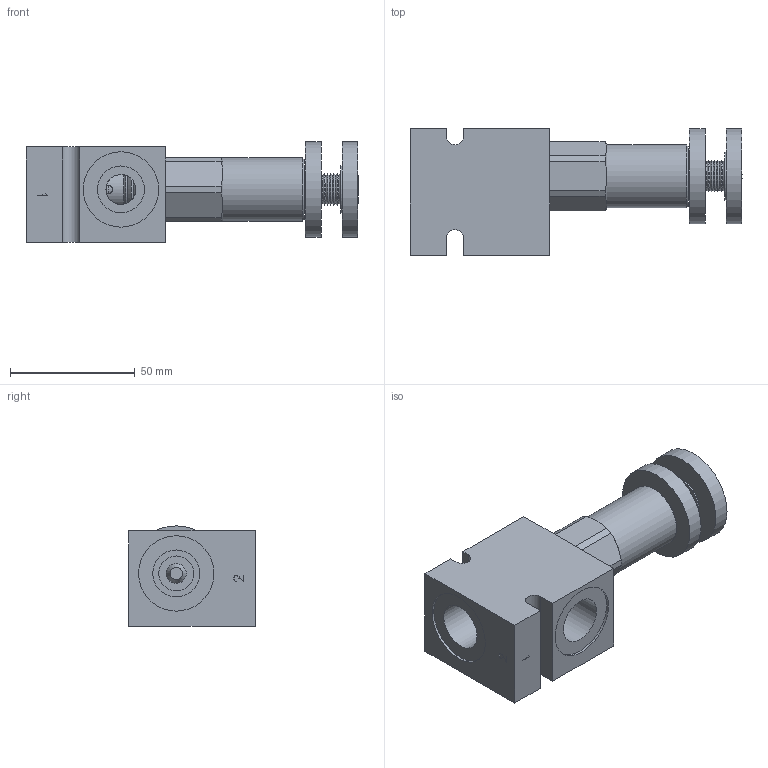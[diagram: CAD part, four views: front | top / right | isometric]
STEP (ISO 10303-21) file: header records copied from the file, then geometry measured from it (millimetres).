
FILE_DESCRIPTION( ( 'Unknown' ), '1' );
FILE_NAME( 'G:/Graphic Design/Graphic Design 2/Data Sheets/PRESSURE CONTROLS/2_STEP/Direct Acting Relief Valves/D-DERVA0K-C2.stp', 'Unknown', ( 'Unknown' ), ( 'Unknown' ), 'PSStep 16.0.42', 'Unknown', ' ' );
FILE_SCHEMA( ( 'AUTOMOTIVE_DESIGN { 1 0 10303 214 1 1 1 1 }' ) );
Length unit declared in the file: millimetre
Products named in the file (9): DERVA0K; DERVA0K-3D Full1; DERVA0K-3D Full2; DERVA0K-3D Full3; DERVA0K-3D Full5; DERVA0K-3D Full6; DERVA0K-3D Full4; Assem1; B-DDEC2
Assembly tree (8 placements, depth 3):
  Assem1
    B-DDEC2
    DERVA0K
      DERVA0K-3D Full1
      DERVA0K-3D Full2
      DERVA0K-3D Full3
      DERVA0K-3D Full5
      DERVA0K-3D Full6
      DERVA0K-3D Full4
Bounding box: 132.92 x 50.8 x 40.15 mm (x, y, z)
Surface area: 35338.8 mm2 (no closed solid volume)
Topology: 0 solids, 223 shells, 223 faces, 957 edges, 854 vertices
Faces by surface type: plane 99, cone 78, cylinder 42, torus 4
Full cylindrical faces by diameter (mm): 0.2 x2, 3.454 x6, 7.874 x1, 7.95 x1, 9.347 x1, 10.973 x1, 12 x1, 12.7 x3, 12.992 x1, 13.043 x1, 14 x1, 15.735 x1, 15.773 x2, 15.9 x1, 17.043 x1, 17.323 x1, 18.8 x4, 19.05 x2, 19.622 x1, 20.262 x2, 25.4 x1, 30.17 x2, 30.175 x1, 38.1 x2
Entity records: 12387 total; most frequent: CARTESIAN_POINT 4040, DIRECTION 1230, VERTEX_POINT 847, ORIENTED_EDGE 845, EDGE_CURVE 845, AXIS2_PLACEMENT_3D 529, FACE_BOUND 357, EDGE_LOOP 355
